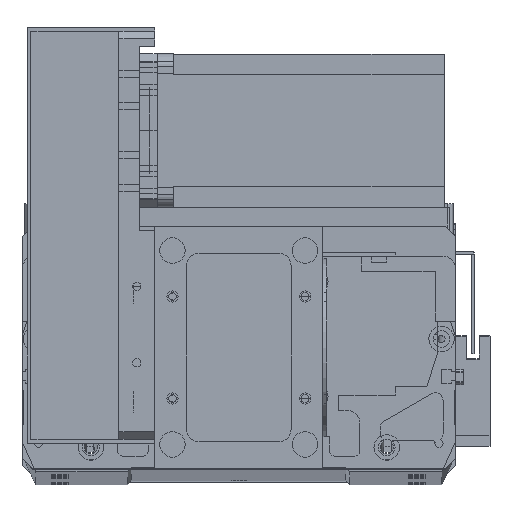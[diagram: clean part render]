
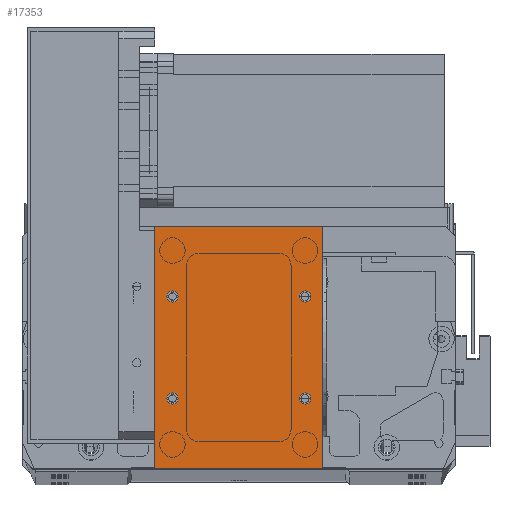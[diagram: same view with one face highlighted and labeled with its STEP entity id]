
A CAD part, top view. The second image highlights one B-rep face of the part: STEP entity #17353.
In plain terms, the highlighted planar face has unit normal (0, 0, 1).
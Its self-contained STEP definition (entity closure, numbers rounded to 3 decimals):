
#72 = AXIS2_PLACEMENT_3D ( 'NONE', #21397, #5482, #24104 ) ;
#237 = DIRECTION ( 'NONE',  ( 1., 0., 0. ) ) ;
#701 = VERTEX_POINT ( 'NONE', #13582 ) ;
#716 = DIRECTION ( 'NONE',  ( 1., 0., 0. ) ) ;
#943 = EDGE_CURVE ( 'NONE', #23239, #26579, #4082, .T. ) ;
#1063 = DIRECTION ( 'NONE',  ( 0., -1., 0. ) ) ;
#1101 = DIRECTION ( 'NONE',  ( 0., 0., 1. ) ) ;
#1163 = AXIS2_PLACEMENT_3D ( 'NONE', #17120, #1242, #19801 ) ;
#1181 = VERTEX_POINT ( 'NONE', #4161 ) ;
#1183 = AXIS2_PLACEMENT_3D ( 'NONE', #31300, #15313, #33959 ) ;
#1242 = DIRECTION ( 'NONE',  ( 0., 0., 1. ) ) ;
#2400 = AXIS2_PLACEMENT_3D ( 'NONE', #4836, #23462, #7553 ) ;
#2652 = ORIENTED_EDGE ( 'NONE', *, *, #3490, .F. ) ;
#2813 = ORIENTED_EDGE ( 'NONE', *, *, #20245, .T. ) ;
#3337 = EDGE_LOOP ( 'NONE', ( #8977, #22025 ) ) ;
#3392 = EDGE_CURVE ( 'NONE', #22283, #1181, #22642, .T. ) ;
#3490 = EDGE_CURVE ( 'NONE', #6009, #13493, #26377, .T. ) ;
#3734 = LINE ( 'NONE', #29768, #17025 ) ;
#4082 = LINE ( 'NONE', #5036, #10291 ) ;
#4161 = CARTESIAN_POINT ( 'NONE',  ( 61.25, 27.5, 2. ) ) ;
#4367 = CARTESIAN_POINT ( 'NONE',  ( 56.75, 27.5, 2. ) ) ;
#4431 = CIRCLE ( 'NONE', #1183, 2.25 ) ;
#4836 = CARTESIAN_POINT ( 'NONE',  ( 7., 27.5, 2. ) ) ;
#5036 = CARTESIAN_POINT ( 'NONE',  ( 0., 0., 2. ) ) ;
#5276 = FACE_BOUND ( 'NONE', #12517, .T. ) ;
#5482 = DIRECTION ( 'NONE',  ( 0., 0., 1. ) ) ;
#5740 = ORIENTED_EDGE ( 'NONE', *, *, #8129, .F. ) ;
#6009 = VERTEX_POINT ( 'NONE', #22875 ) ;
#6049 = ORIENTED_EDGE ( 'NONE', *, *, #943, .T. ) ;
#6812 = ORIENTED_EDGE ( 'NONE', *, *, #13605, .F. ) ;
#6824 = ORIENTED_EDGE ( 'NONE', *, *, #19235, .F. ) ;
#6863 = EDGE_LOOP ( 'NONE', ( #6812, #2652 ) ) ;
#6977 = DIRECTION ( 'NONE',  ( -1., 0., 0. ) ) ;
#7100 = DIRECTION ( 'NONE',  ( 1., 0., 0. ) ) ;
#7368 = VERTEX_POINT ( 'NONE', #19303 ) ;
#7421 = CARTESIAN_POINT ( 'NONE',  ( 0., 95., 2. ) ) ;
#7501 = EDGE_LOOP ( 'NONE', ( #6824, #5740 ) ) ;
#7553 = DIRECTION ( 'NONE',  ( 1., 0., 0. ) ) ;
#7628 = EDGE_CURVE ( 'NONE', #29734, #24407, #30196, .T. ) ;
#7923 = AXIS2_PLACEMENT_3D ( 'NONE', #20204, #33493, #6977 ) ;
#8129 = EDGE_CURVE ( 'NONE', #701, #7368, #27671, .T. ) ;
#8249 = AXIS2_PLACEMENT_3D ( 'NONE', #9601, #28265, #12239 ) ;
#8487 = CARTESIAN_POINT ( 'NONE',  ( 9.25, 27.5, 2. ) ) ;
#8688 = CARTESIAN_POINT ( 'NONE',  ( 61.25, 67.5, 2. ) ) ;
#8704 = VECTOR ( 'NONE', #7100, 1000. ) ;
#8977 = ORIENTED_EDGE ( 'NONE', *, *, #21684, .F. ) ;
#9308 = LINE ( 'NONE', #7421, #29732 ) ;
#9601 = CARTESIAN_POINT ( 'NONE',  ( 7., 67.5, 2. ) ) ;
#10291 = VECTOR ( 'NONE', #1063, 1000. ) ;
#11763 = CARTESIAN_POINT ( 'NONE',  ( 0., 95., 2. ) ) ;
#12139 = EDGE_CURVE ( 'NONE', #26579, #32775, #30760, .T. ) ;
#12239 = DIRECTION ( 'NONE',  ( 1., 0., 0. ) ) ;
#12418 = CARTESIAN_POINT ( 'NONE',  ( 0., 0., 2. ) ) ;
#12517 = EDGE_LOOP ( 'NONE', ( #20230, #22453 ) ) ;
#12722 = AXIS2_PLACEMENT_3D ( 'NONE', #32120, #16138, #237 ) ;
#13165 = FACE_BOUND ( 'NONE', #7501, .T. ) ;
#13493 = VERTEX_POINT ( 'NONE', #8688 ) ;
#13582 = CARTESIAN_POINT ( 'NONE',  ( 4.75, 67.5, 2. ) ) ;
#13605 = EDGE_CURVE ( 'NONE', #13493, #6009, #17948, .T. ) ;
#14701 = CIRCLE ( 'NONE', #16196, 2.25 ) ;
#14880 = EDGE_LOOP ( 'NONE', ( #6049, #25928, #2813, #16581 ) ) ;
#14893 = CIRCLE ( 'NONE', #72, 2.25 ) ;
#15027 = CARTESIAN_POINT ( 'NONE',  ( 0., 0., 2. ) ) ;
#15313 = DIRECTION ( 'NONE',  ( 0., 0., 1. ) ) ;
#15569 = EDGE_CURVE ( 'NONE', #24407, #29734, #14893, .T. ) ;
#16103 = CARTESIAN_POINT ( 'NONE',  ( 66., 95., 2. ) ) ;
#16138 = DIRECTION ( 'NONE',  ( 0., 0., 1. ) ) ;
#16196 = AXIS2_PLACEMENT_3D ( 'NONE', #16994, #1101, #19676 ) ;
#16581 = ORIENTED_EDGE ( 'NONE', *, *, #33060, .T. ) ;
#16611 = DIRECTION ( 'NONE',  ( 0., 0., 1. ) ) ;
#16994 = CARTESIAN_POINT ( 'NONE',  ( 7., 67.5, 2. ) ) ;
#17025 = VECTOR ( 'NONE', #27115, 1000. ) ;
#17120 = CARTESIAN_POINT ( 'NONE',  ( 59., 67.5, 2. ) ) ;
#17353 = ADVANCED_FACE ( 'NONE', ( #13165, #25689, #26539, #5276, #34427 ), #17533, .F. ) ;
#17533 = PLANE ( 'NONE',  #7923 ) ;
#17948 = CIRCLE ( 'NONE', #1163, 2.25 ) ;
#18413 = VERTEX_POINT ( 'NONE', #16103 ) ;
#19235 = EDGE_CURVE ( 'NONE', #7368, #701, #14701, .T. ) ;
#19303 = CARTESIAN_POINT ( 'NONE',  ( 9.25, 67.5, 2. ) ) ;
#19676 = DIRECTION ( 'NONE',  ( 1., 0., 0. ) ) ;
#19801 = DIRECTION ( 'NONE',  ( 1., 0., 0. ) ) ;
#20204 = CARTESIAN_POINT ( 'NONE',  ( 0., 0., 2. ) ) ;
#20230 = ORIENTED_EDGE ( 'NONE', *, *, #7628, .F. ) ;
#20245 = EDGE_CURVE ( 'NONE', #32775, #18413, #3734, .T. ) ;
#20638 = DIRECTION ( 'NONE',  ( -1., 0., 0. ) ) ;
#21397 = CARTESIAN_POINT ( 'NONE',  ( 7., 27.5, 2. ) ) ;
#21684 = EDGE_CURVE ( 'NONE', #1181, #22283, #4431, .T. ) ;
#22025 = ORIENTED_EDGE ( 'NONE', *, *, #3392, .F. ) ;
#22283 = VERTEX_POINT ( 'NONE', #4367 ) ;
#22453 = ORIENTED_EDGE ( 'NONE', *, *, #15569, .F. ) ;
#22642 = CIRCLE ( 'NONE', #12722, 2.25 ) ;
#22875 = CARTESIAN_POINT ( 'NONE',  ( 56.75, 67.5, 2. ) ) ;
#23239 = VERTEX_POINT ( 'NONE', #11763 ) ;
#23462 = DIRECTION ( 'NONE',  ( 0., 0., 1. ) ) ;
#24104 = DIRECTION ( 'NONE',  ( 1., 0., 0. ) ) ;
#24407 = VERTEX_POINT ( 'NONE', #27225 ) ;
#25689 = FACE_BOUND ( 'NONE', #6863, .T. ) ;
#25928 = ORIENTED_EDGE ( 'NONE', *, *, #12139, .T. ) ;
#26377 = CIRCLE ( 'NONE', #30619, 2.25 ) ;
#26539 = FACE_BOUND ( 'NONE', #3337, .T. ) ;
#26579 = VERTEX_POINT ( 'NONE', #15027 ) ;
#27115 = DIRECTION ( 'NONE',  ( 0., 1., 0. ) ) ;
#27225 = CARTESIAN_POINT ( 'NONE',  ( 4.75, 27.5, 2. ) ) ;
#27388 = CARTESIAN_POINT ( 'NONE',  ( 66., 0., 2. ) ) ;
#27671 = CIRCLE ( 'NONE', #8249, 2.25 ) ;
#28265 = DIRECTION ( 'NONE',  ( 0., 0., 1. ) ) ;
#29732 = VECTOR ( 'NONE', #20638, 1000. ) ;
#29734 = VERTEX_POINT ( 'NONE', #8487 ) ;
#29768 = CARTESIAN_POINT ( 'NONE',  ( 66., 0., 2. ) ) ;
#30196 = CIRCLE ( 'NONE', #2400, 2.25 ) ;
#30619 = AXIS2_PLACEMENT_3D ( 'NONE', #32576, #16611, #716 ) ;
#30760 = LINE ( 'NONE', #12418, #8704 ) ;
#31300 = CARTESIAN_POINT ( 'NONE',  ( 59., 27.5, 2. ) ) ;
#32120 = CARTESIAN_POINT ( 'NONE',  ( 59., 27.5, 2. ) ) ;
#32576 = CARTESIAN_POINT ( 'NONE',  ( 59., 67.5, 2. ) ) ;
#32775 = VERTEX_POINT ( 'NONE', #27388 ) ;
#33060 = EDGE_CURVE ( 'NONE', #18413, #23239, #9308, .T. ) ;
#33493 = DIRECTION ( 'NONE',  ( 0., 0., -1. ) ) ;
#33959 = DIRECTION ( 'NONE',  ( 1., 0., 0. ) ) ;
#34427 = FACE_OUTER_BOUND ( 'NONE', #14880, .T. ) ;
